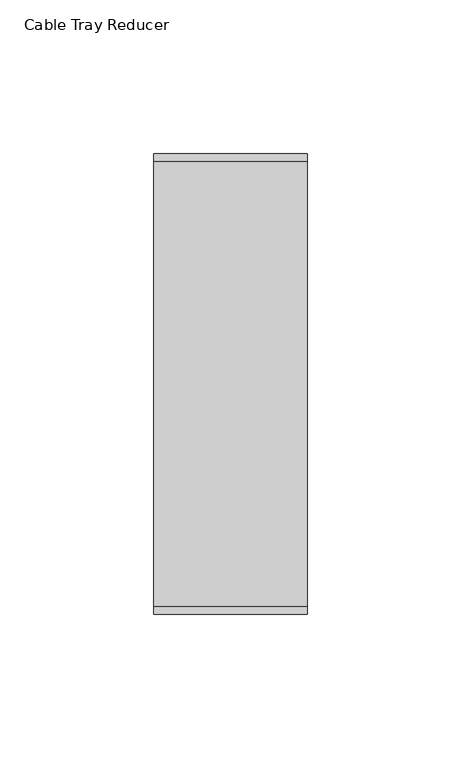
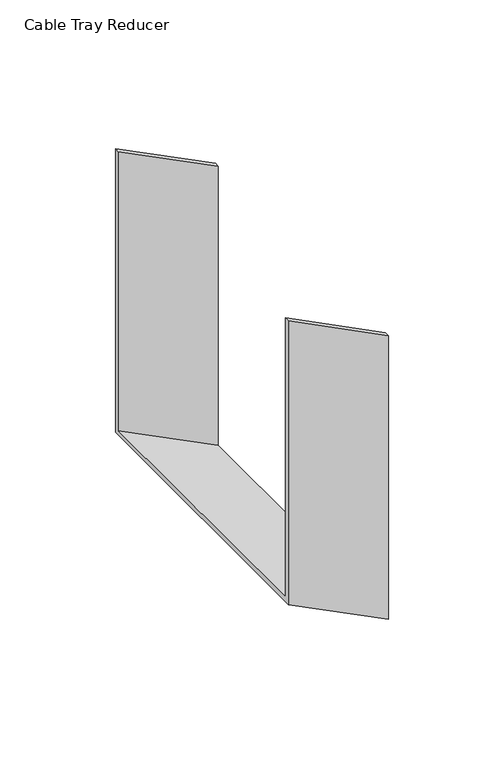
"""IFC4 building model written with IfcOpenShell, lengths in millimetres: cable carrier fitting geometry, Cable Tray Reducer : ELEC_ELV_TKG_N2402."""

from ifc_helpers import new_model, si_unit, origin, place, context, project, spatial, faceted_brep, source, transform, mapped, element, save


def cable_tray_reducer_c4c58872(model_context):
    return source(origin(), model_context, "Body", "Brep", [
        faceted_brep([(50.0, -75.0014636, -100.3002416), (50.0, 74.9985364, -100.3002416), (50.0, 74.9985364, 49.6997584), (50.0, 72.4585365, 49.6997584), (50.0, 72.4585365, -97.7602416), (50.0, -72.4614636, -97.7602416), (50.0, -72.4614636, 49.6997584), (50.0, -75.0014636, 49.6997584), (0.0, -75.0, -75.0), (0.0, -75.0, 75.0), (0.0, -72.46, 75.0), (0.0, -72.46, -72.46), (0.0, 72.46, -72.46), (0.0, 72.46, 75.0), (0.0, 75.0, 75.0), (0.0, 75.0, -75.0)], [[[0, 1, 2, 3, 4, 5, 6, 7]], [[8, 9, 10, 11, 12, 13, 14, 15]], [[8, 15, 1, 0]], [[15, 14, 2, 1]], [[14, 13, 3, 2]], [[13, 12, 4, 3]], [[12, 11, 5, 4]], [[11, 10, 6, 5]], [[10, 9, 7, 6]], [[9, 8, 0, 7]]]),
    ])


if __name__ == "__main__":
    model = new_model("IFC4")
    model_context = context("Model", 3, world=origin())
    ifc_project = project(units=[si_unit("LENGTHUNIT", "METRE", prefix="MILLI")], contexts=[model_context])
    site = spatial("IfcSite", under=ifc_project)
    building = spatial("IfcBuilding", under=site)
    placement = place(None, origin())
    cable_tray_reducer_shape = cable_tray_reducer_c4c58872(model_context)
    element("IfcCableCarrierFitting", 1, ObjectType="Cable Tray Reducer : ELEC_ELV_TKG_N2402", at=placement, inside=building, context=model_context, shape_type="MappedRepresentation", body=[
        mapped(cable_tray_reducer_shape, transform((0.0, 0.0, 0.0), x_axis=(1.0, 0.0, 0.0), y_axis=(0.0, 1.0, 0.0), z_axis=(0.0, 0.0, 1.0))),
    ])
    save(model, "model.ifc")
